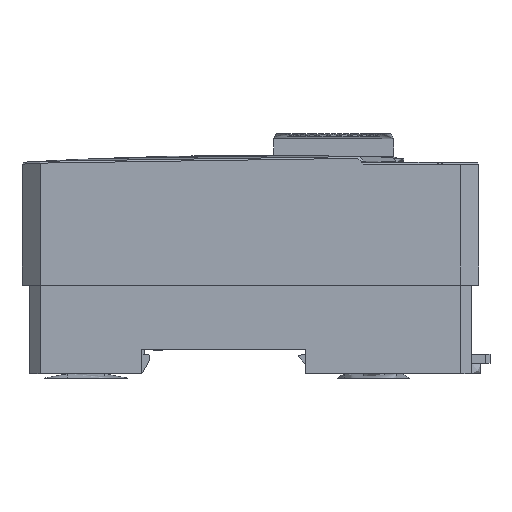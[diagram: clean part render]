
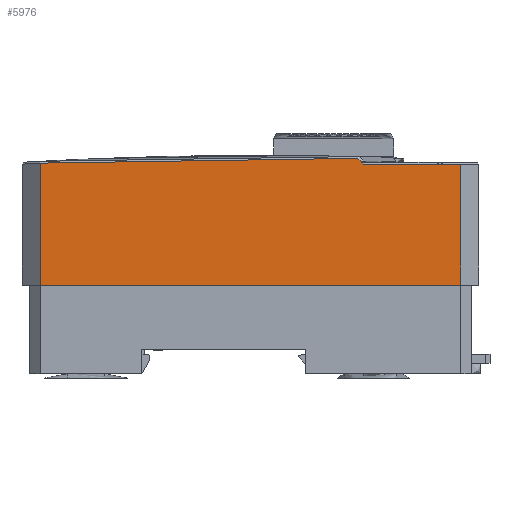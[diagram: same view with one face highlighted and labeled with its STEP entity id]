
A CAD part, left-side view. The second image highlights one B-rep face of the part: STEP entity #5976.
In plain terms, the highlighted planar face has unit normal (-1, 0, 0).
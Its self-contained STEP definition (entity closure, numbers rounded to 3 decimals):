
#5976=ADVANCED_FACE('',(#10158),#73827,.T.);
#10158=FACE_OUTER_BOUND('',#14445,.T.);
#14445=EDGE_LOOP('',(#22547,#22548,#22549,#22550,#22551,#22552,#22553,#22554,
#22555,#22556,#22557,#22558));
#22547=ORIENTED_EDGE('',*,*,#42513,.T.);
#22548=ORIENTED_EDGE('',*,*,#42514,.T.);
#22549=ORIENTED_EDGE('',*,*,#42515,.T.);
#22550=ORIENTED_EDGE('',*,*,#42516,.T.);
#22551=ORIENTED_EDGE('',*,*,#42517,.T.);
#22552=ORIENTED_EDGE('',*,*,#42518,.F.);
#22553=ORIENTED_EDGE('',*,*,#42523,.T.);
#22554=ORIENTED_EDGE('',*,*,#42519,.T.);
#22555=ORIENTED_EDGE('',*,*,#42520,.T.);
#22556=ORIENTED_EDGE('',*,*,#42521,.T.);
#22557=ORIENTED_EDGE('',*,*,#42724,.T.);
#22558=ORIENTED_EDGE('',*,*,#42522,.T.);
#42513=EDGE_CURVE('',#65543,#65544,#52739,.T.);
#42514=EDGE_CURVE('',#65544,#65545,#52740,.T.);
#42515=EDGE_CURVE('',#65545,#65546,#57149,.T.);
#42516=EDGE_CURVE('',#65546,#65547,#57150,.T.);
#42517=EDGE_CURVE('',#65547,#65512,#57151,.T.);
#42518=EDGE_CURVE('',#65511,#65512,#57152,.T.);
#42519=EDGE_CURVE('',#65548,#65549,#57153,.T.);
#42520=EDGE_CURVE('',#65549,#65550,#52741,.T.);
#42521=EDGE_CURVE('',#65550,#65551,#52742,.T.);
#42522=EDGE_CURVE('',#65552,#65543,#52743,.T.);
#42523=EDGE_CURVE('',#65511,#65548,#57154,.T.);
#42724=EDGE_CURVE('',#65551,#65552,#52806,.T.);
#52739=(
BOUNDED_CURVE()
B_SPLINE_CURVE(3,(#102913,#102914,#102915,#102916),.UNSPECIFIED.,.F.,.F.)
B_SPLINE_CURVE_WITH_KNOTS((4,4),(0.,1.104),.UNSPECIFIED.)
CURVE()
GEOMETRIC_REPRESENTATION_ITEM()
RATIONAL_B_SPLINE_CURVE((1.,1.,1.,1.))
REPRESENTATION_ITEM('')
);
#52740=(
BOUNDED_CURVE()
B_SPLINE_CURVE(3,(#102917,#102918,#102919,#102920,#102921,#102922,#102923,
#102924,#102925,#102926,#102927,#102928,#102929),.UNSPECIFIED.,.F.,.F.)
B_SPLINE_CURVE_WITH_KNOTS((4,3,2,2,2,4),(0.,4.748,17.394,
34.788,52.182,69.576),.UNSPECIFIED.)
CURVE()
GEOMETRIC_REPRESENTATION_ITEM()
RATIONAL_B_SPLINE_CURVE((1.,1.006,1.011,1.017,
1.014,1.012,1.006,1.004,1.,
0.999,0.998,0.999,1.))
REPRESENTATION_ITEM('')
);
#52741=(
BOUNDED_CURVE()
B_SPLINE_CURVE(3,(#102940,#102941,#102942,#102943),.UNSPECIFIED.,.F.,.F.)
B_SPLINE_CURVE_WITH_KNOTS((4,4),(0.,0.009),.UNSPECIFIED.)
CURVE()
GEOMETRIC_REPRESENTATION_ITEM()
RATIONAL_B_SPLINE_CURVE((1.,1.,1.,1.))
REPRESENTATION_ITEM('')
);
#52742=(
BOUNDED_CURVE()
B_SPLINE_CURVE(3,(#102944,#102945,#102946,#102947),.UNSPECIFIED.,.F.,.F.)
B_SPLINE_CURVE_WITH_KNOTS((4,4),(0.,16.806),.UNSPECIFIED.)
CURVE()
GEOMETRIC_REPRESENTATION_ITEM()
RATIONAL_B_SPLINE_CURVE((1.,1.,1.,1.))
REPRESENTATION_ITEM('')
);
#52743=(
BOUNDED_CURVE()
B_SPLINE_CURVE(3,(#102948,#102949,#102950,#102951),.UNSPECIFIED.,.F.,.F.)
B_SPLINE_CURVE_WITH_KNOTS((4,4),(0.,0.098),.UNSPECIFIED.)
CURVE()
GEOMETRIC_REPRESENTATION_ITEM()
RATIONAL_B_SPLINE_CURVE((1.,1.,1.,1.))
REPRESENTATION_ITEM('')
);
#52806=(
BOUNDED_CURVE()
B_SPLINE_CURVE(2,(#103931,#103932,#103933),.UNSPECIFIED.,.F.,.F.)
B_SPLINE_CURVE_WITH_KNOTS((3,3),(0.,0.628),.UNSPECIFIED.)
CURVE()
GEOMETRIC_REPRESENTATION_ITEM()
RATIONAL_B_SPLINE_CURVE((1.,0.707,1.))
REPRESENTATION_ITEM('')
);
#57149=B_SPLINE_CURVE_WITH_KNOTS('',1,(#102930,#102931),.UNSPECIFIED.,.F.,
 .F.,(2,2),(-26.706,0.),.UNSPECIFIED.);
#57150=B_SPLINE_CURVE_WITH_KNOTS('',1,(#102932,#102933),.UNSPECIFIED.,.F.,
 .F.,(2,2),(0.,92.),.UNSPECIFIED.);
#57151=B_SPLINE_CURVE_WITH_KNOTS('',1,(#102934,#102935),.UNSPECIFIED.,.F.,
 .F.,(2,2),(0.,26.479),.UNSPECIFIED.);
#57152=B_SPLINE_CURVE_WITH_KNOTS('',1,(#102936,#102937),.UNSPECIFIED.,.F.,
 .F.,(2,2),(-4.43,0.),.UNSPECIFIED.);
#57153=B_SPLINE_CURVE_WITH_KNOTS('',1,(#102938,#102939),.UNSPECIFIED.,.F.,
 .F.,(2,2),(-16.819,-16.769),.UNSPECIFIED.);
#57154=B_SPLINE_CURVE_WITH_KNOTS('',3,(#102952,#102953,#102954,#102955),
 .UNSPECIFIED.,.F.,.F.,(4,4),(-1.396,-1.358),
 .UNSPECIFIED.);
#65511=VERTEX_POINT('',#101270);
#65512=VERTEX_POINT('',#101271);
#65543=VERTEX_POINT('',#101302);
#65544=VERTEX_POINT('',#101303);
#65545=VERTEX_POINT('',#101304);
#65546=VERTEX_POINT('',#101305);
#65547=VERTEX_POINT('',#101306);
#65548=VERTEX_POINT('',#101307);
#65549=VERTEX_POINT('',#101308);
#65550=VERTEX_POINT('',#101309);
#65551=VERTEX_POINT('',#101310);
#65552=VERTEX_POINT('',#101311);
#73827=PLANE('',#76631);
#76631=AXIS2_PLACEMENT_3D('',#95790,#79420,$);
#79420=DIRECTION('',(-1.,0.,0.));
#95790=CARTESIAN_POINT('',(-120.324,75.288,6.252));
#101270=CARTESIAN_POINT('',(-120.324,-21.494,35.544));
#101271=CARTESIAN_POINT('',(-120.324,-25.924,35.544));
#101302=CARTESIAN_POINT('',(-120.324,-4.19,36.041));
#101303=CARTESIAN_POINT('',(-120.324,-3.402,36.815));
#101304=CARTESIAN_POINT('',(-120.324,66.076,35.77));
#101305=CARTESIAN_POINT('',(-120.324,66.076,9.065));
#101306=CARTESIAN_POINT('',(-120.324,-25.924,9.065));
#101307=CARTESIAN_POINT('',(-120.324,-21.455,35.544));
#101308=CARTESIAN_POINT('',(-120.324,-21.405,35.544));
#101309=CARTESIAN_POINT('',(-120.324,-21.396,35.545));
#101310=CARTESIAN_POINT('',(-120.324,-4.59,35.544));
#101311=CARTESIAN_POINT('',(-120.324,-4.19,35.944));
#102913=CARTESIAN_POINT('',(-120.324,-4.19,36.041));
#102914=CARTESIAN_POINT('',(-120.324,-3.927,36.299));
#102915=CARTESIAN_POINT('',(-120.324,-3.665,36.557));
#102916=CARTESIAN_POINT('',(-120.324,-3.402,36.815));
#102917=CARTESIAN_POINT('',(-120.324,-3.402,36.815));
#102918=CARTESIAN_POINT('',(-120.324,-1.812,36.85));
#102919=CARTESIAN_POINT('',(-120.324,-0.235,36.882));
#102920=CARTESIAN_POINT('',(-120.324,1.34,36.909));
#102921=CARTESIAN_POINT('',(-120.324,5.523,36.982));
#102922=CARTESIAN_POINT('',(-120.324,9.722,37.028));
#102923=CARTESIAN_POINT('',(-120.324,19.758,37.07));
#102924=CARTESIAN_POINT('',(-120.324,25.591,37.041));
#102925=CARTESIAN_POINT('',(-120.324,37.266,36.871));
#102926=CARTESIAN_POINT('',(-120.324,43.092,36.73));
#102927=CARTESIAN_POINT('',(-120.324,54.672,36.335));
#102928=CARTESIAN_POINT('',(-120.324,60.409,36.081));
#102929=CARTESIAN_POINT('',(-120.324,66.076,35.77));
#102930=CARTESIAN_POINT('',(-120.324,66.076,35.77));
#102931=CARTESIAN_POINT('',(-120.324,66.076,9.065));
#102932=CARTESIAN_POINT('',(-120.324,66.076,9.065));
#102933=CARTESIAN_POINT('',(-120.324,-25.924,9.065));
#102934=CARTESIAN_POINT('',(-120.324,-25.924,9.065));
#102935=CARTESIAN_POINT('',(-120.324,-25.924,35.544));
#102936=CARTESIAN_POINT('',(-120.324,-21.494,35.544));
#102937=CARTESIAN_POINT('',(-120.324,-25.924,35.544));
#102938=CARTESIAN_POINT('',(-120.324,-21.455,35.544));
#102939=CARTESIAN_POINT('',(-120.324,-21.405,35.544));
#102940=CARTESIAN_POINT('',(-120.324,-21.405,35.544));
#102941=CARTESIAN_POINT('',(-120.324,-21.402,35.544));
#102942=CARTESIAN_POINT('',(-120.324,-21.399,35.545));
#102943=CARTESIAN_POINT('',(-120.324,-21.396,35.545));
#102944=CARTESIAN_POINT('',(-120.324,-21.396,35.545));
#102945=CARTESIAN_POINT('',(-120.324,-15.794,35.545));
#102946=CARTESIAN_POINT('',(-120.324,-10.192,35.544));
#102947=CARTESIAN_POINT('',(-120.324,-4.59,35.544));
#102948=CARTESIAN_POINT('',(-120.324,-4.19,35.944));
#102949=CARTESIAN_POINT('',(-120.324,-4.19,35.976));
#102950=CARTESIAN_POINT('',(-120.324,-4.19,36.009));
#102951=CARTESIAN_POINT('',(-120.324,-4.19,36.041));
#102952=CARTESIAN_POINT('',(-120.324,-21.494,35.544));
#102953=CARTESIAN_POINT('',(-120.324,-21.481,35.544));
#102954=CARTESIAN_POINT('',(-120.324,-21.468,35.544));
#102955=CARTESIAN_POINT('',(-120.324,-21.455,35.544));
#103931=CARTESIAN_POINT('',(-120.324,-4.59,35.544));
#103932=CARTESIAN_POINT('',(-120.324,-4.19,35.544));
#103933=CARTESIAN_POINT('',(-120.324,-4.19,35.944));
